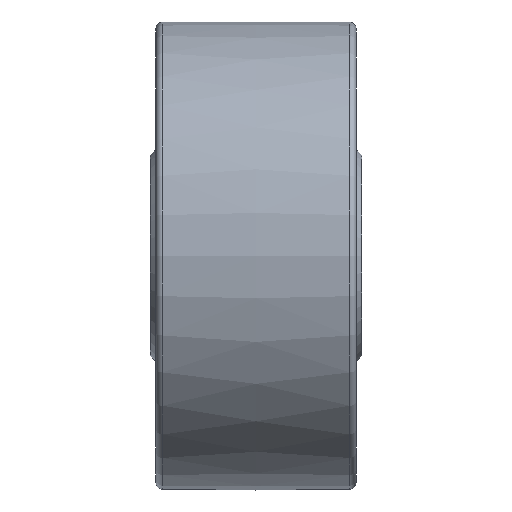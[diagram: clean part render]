
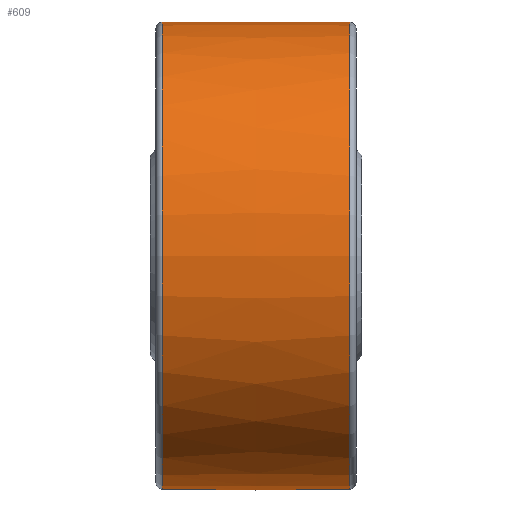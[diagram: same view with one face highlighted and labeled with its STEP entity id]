
A CAD part, front view. The second image highlights one B-rep face of the part: STEP entity #609.
In plain terms, the highlighted free-form (B-spline) face has degree [2, 2] with [3, 9] control points.
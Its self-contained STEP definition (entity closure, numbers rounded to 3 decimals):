
#159=(
BOUNDED_CURVE()
B_SPLINE_CURVE(2,(#1075,#1076,#1077),.UNSPECIFIED.,.F.,.F.)
B_SPLINE_CURVE_WITH_KNOTS((3,3),(-0.017,0.017),
 .UNSPECIFIED.)
CURVE()
GEOMETRIC_REPRESENTATION_ITEM()
RATIONAL_B_SPLINE_CURVE((1.,1.,1.))
REPRESENTATION_ITEM('')
);
#160=(
BOUNDED_SURFACE()
B_SPLINE_SURFACE(2,2,((#1044,#1045,#1046,#1047,#1048,#1049,#1050,#1051,
#1052),(#1053,#1054,#1055,#1056,#1057,#1058,#1059,#1060,#1061),(#1062,#1063,
#1064,#1065,#1066,#1067,#1068,#1069,#1070)),.UNSPECIFIED.,.F.,.T.,.F.)
B_SPLINE_SURFACE_WITH_KNOTS((3,3),(3,2,2,2,3),(-0.017,0.017),
(-3.142,-1.571,0.,1.571,3.142),
 .UNSPECIFIED.)
GEOMETRIC_REPRESENTATION_ITEM()
RATIONAL_B_SPLINE_SURFACE(((1.,0.707,1.,0.707,1.,
0.707,1.,0.707,1.),(1.,0.707,
1.,0.707,1.,0.707,
1.,0.707,1.),(1.,0.707,
1.,0.707,1.,0.707,1.,0.707,1.)))
REPRESENTATION_ITEM('')
SURFACE()
);
#208=FACE_OUTER_BOUND('',#258,.T.);
#258=EDGE_LOOP('',(#505,#506,#507,#508,#509,#510));
#352=CIRCLE('',#667,21.01);
#353=CIRCLE('',#668,21.01);
#354=CIRCLE('',#669,21.01);
#355=CIRCLE('',#670,21.01);
#402=VERTEX_POINT('',#1040);
#403=VERTEX_POINT('',#1041);
#404=VERTEX_POINT('',#1071);
#405=VERTEX_POINT('',#1072);
#452=EDGE_CURVE('',#402,#403,#352,.T.);
#453=EDGE_CURVE('',#403,#402,#353,.T.);
#454=EDGE_CURVE('',#404,#405,#354,.T.);
#455=EDGE_CURVE('',#405,#404,#355,.T.);
#456=EDGE_CURVE('',#405,#403,#159,.T.);
#505=ORIENTED_EDGE('',*,*,#454,.F.);
#506=ORIENTED_EDGE('',*,*,#455,.F.);
#507=ORIENTED_EDGE('',*,*,#456,.T.);
#508=ORIENTED_EDGE('',*,*,#452,.F.);
#509=ORIENTED_EDGE('',*,*,#453,.F.);
#510=ORIENTED_EDGE('',*,*,#456,.F.);
#609=ADVANCED_FACE('',(#208),#160,.F.);
#667=AXIS2_PLACEMENT_3D('',#1042,#794,#795);
#668=AXIS2_PLACEMENT_3D('',#1043,#796,#797);
#669=AXIS2_PLACEMENT_3D('',#1073,#798,#799);
#670=AXIS2_PLACEMENT_3D('',#1074,#800,#801);
#794=DIRECTION('center_axis',(-1.,0.,0.));
#795=DIRECTION('ref_axis',(0.,-1.,0.));
#796=DIRECTION('center_axis',(-1.,0.,0.));
#797=DIRECTION('ref_axis',(0.,-1.,0.));
#798=DIRECTION('center_axis',(1.,0.,0.));
#799=DIRECTION('ref_axis',(0.,-1.,0.));
#800=DIRECTION('center_axis',(1.,0.,0.));
#801=DIRECTION('ref_axis',(0.,-1.,0.));
#1040=CARTESIAN_POINT('',(-8.41,21.01,0.));
#1041=CARTESIAN_POINT('',(-8.41,0.,21.01));
#1042=CARTESIAN_POINT('Origin',(-8.41,0.,0.));
#1043=CARTESIAN_POINT('Origin',(-8.41,0.,0.));
#1044=CARTESIAN_POINT('Ctrl Pts',(-8.41,0.,
21.01));
#1045=CARTESIAN_POINT('Ctrl Pts',(-8.41,-21.01,21.01));
#1046=CARTESIAN_POINT('Ctrl Pts',(-8.41,-21.01,0.));
#1047=CARTESIAN_POINT('Ctrl Pts',(-8.41,-21.01,-21.01));
#1048=CARTESIAN_POINT('Ctrl Pts',(-8.41,0.,
-21.01));
#1049=CARTESIAN_POINT('Ctrl Pts',(-8.41,21.01,-21.01));
#1050=CARTESIAN_POINT('Ctrl Pts',(-8.41,21.01,0.));
#1051=CARTESIAN_POINT('Ctrl Pts',(-8.41,21.01,21.01));
#1052=CARTESIAN_POINT('Ctrl Pts',(-8.41,0.,
21.01));
#1053=CARTESIAN_POINT('Ctrl Pts',(0.,0.,
21.152));
#1054=CARTESIAN_POINT('Ctrl Pts',(0.,-21.152,
21.152));
#1055=CARTESIAN_POINT('Ctrl Pts',(0.,-21.152,
0.));
#1056=CARTESIAN_POINT('Ctrl Pts',(0.,-21.152,
-21.152));
#1057=CARTESIAN_POINT('Ctrl Pts',(0.,0.,
-21.152));
#1058=CARTESIAN_POINT('Ctrl Pts',(0.,21.152,
-21.152));
#1059=CARTESIAN_POINT('Ctrl Pts',(0.,21.152,
0.));
#1060=CARTESIAN_POINT('Ctrl Pts',(0.,21.152,
21.152));
#1061=CARTESIAN_POINT('Ctrl Pts',(0.,0.,
21.152));
#1062=CARTESIAN_POINT('Ctrl Pts',(8.41,0.,
21.01));
#1063=CARTESIAN_POINT('Ctrl Pts',(8.41,-21.01,21.01));
#1064=CARTESIAN_POINT('Ctrl Pts',(8.41,-21.01,0.));
#1065=CARTESIAN_POINT('Ctrl Pts',(8.41,-21.01,-21.01));
#1066=CARTESIAN_POINT('Ctrl Pts',(8.41,0.,
-21.01));
#1067=CARTESIAN_POINT('Ctrl Pts',(8.41,21.01,-21.01));
#1068=CARTESIAN_POINT('Ctrl Pts',(8.41,21.01,0.));
#1069=CARTESIAN_POINT('Ctrl Pts',(8.41,21.01,21.01));
#1070=CARTESIAN_POINT('Ctrl Pts',(8.41,0.,
21.01));
#1071=CARTESIAN_POINT('',(8.41,21.01,0.));
#1072=CARTESIAN_POINT('',(8.41,0.,21.01));
#1073=CARTESIAN_POINT('Origin',(8.41,0.,0.));
#1074=CARTESIAN_POINT('Origin',(8.41,0.,0.));
#1075=CARTESIAN_POINT('Ctrl Pts',(8.41,0.,
21.01));
#1076=CARTESIAN_POINT('Ctrl Pts',(0.,0.,
21.152));
#1077=CARTESIAN_POINT('Ctrl Pts',(-8.41,0.,
21.01));
